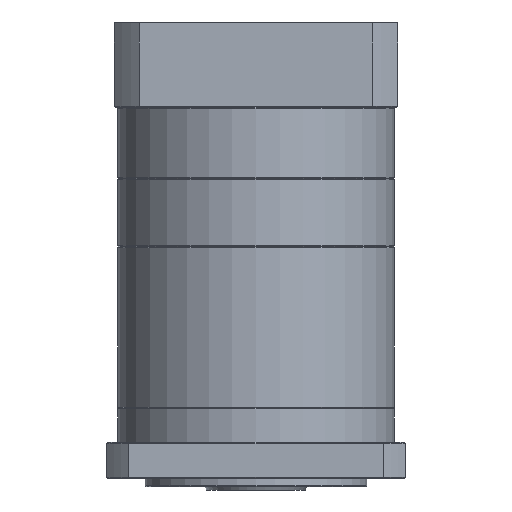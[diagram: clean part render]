
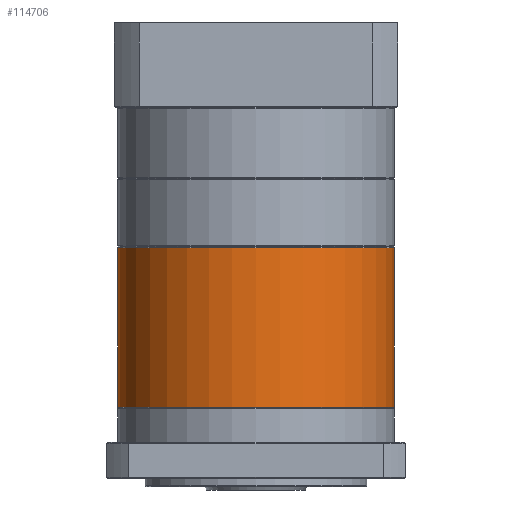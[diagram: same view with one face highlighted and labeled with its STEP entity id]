
A CAD part, front view. The second image highlights one B-rep face of the part: STEP entity #114706.
In plain terms, the highlighted cylindrical face has radius 81 mm (diameter 162 mm), a partial arc.
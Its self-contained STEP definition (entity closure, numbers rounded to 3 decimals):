
#2023 = CARTESIAN_POINT ( 'NONE',  ( -129.227, 108.408, -237.709 ) ) ;
#4892 = ORIENTED_EDGE ( 'NONE', *, *, #89793, .F. ) ;
#6529 = DIRECTION ( 'NONE',  ( 0., 0., -1. ) ) ;
#7050 = LINE ( 'NONE', #47188, #17883 ) ;
#8156 = DIRECTION ( 'NONE',  ( 0., 0., -1. ) ) ;
#17883 = VECTOR ( 'NONE', #8156, 1000. ) ;
#19099 = CARTESIAN_POINT ( 'NONE',  ( -48.227, 108.408, -143.709 ) ) ;
#20672 = VERTEX_POINT ( 'NONE', #50349 ) ;
#21249 = DIRECTION ( 'NONE',  ( -1., 0., 0. ) ) ;
#22335 = AXIS2_PLACEMENT_3D ( 'NONE', #109019, #68715, #119434 ) ;
#28466 = CARTESIAN_POINT ( 'NONE',  ( -48.227, 108.408, -144.209 ) ) ;
#30042 = LINE ( 'NONE', #94069, #50198 ) ;
#32660 = FACE_OUTER_BOUND ( 'NONE', #34008, .T. ) ;
#34008 = EDGE_LOOP ( 'NONE', ( #4892, #82136, #84194, #40765 ) ) ;
#35285 = EDGE_CURVE ( 'NONE', #113868, #20672, #78063, .T. ) ;
#36747 = CARTESIAN_POINT ( 'NONE',  ( -129.227, 108.408, -144.209 ) ) ;
#40765 = ORIENTED_EDGE ( 'NONE', *, *, #35285, .T. ) ;
#46629 = CYLINDRICAL_SURFACE ( 'NONE', #110450, 81. ) ;
#46761 = AXIS2_PLACEMENT_3D ( 'NONE', #28466, #97800, #117770 ) ;
#47188 = CARTESIAN_POINT ( 'NONE',  ( 32.773, 108.408, -143.709 ) ) ;
#50198 = VECTOR ( 'NONE', #6529, 1000. ) ;
#50349 = CARTESIAN_POINT ( 'NONE',  ( 32.773, 108.408, -237.709 ) ) ;
#68236 = VERTEX_POINT ( 'NONE', #71410 ) ;
#68715 = DIRECTION ( 'NONE',  ( 0., 0., 1. ) ) ;
#71410 = CARTESIAN_POINT ( 'NONE',  ( 32.773, 108.408, -144.209 ) ) ;
#78063 = CIRCLE ( 'NONE', #22335, 81. ) ;
#78712 = EDGE_CURVE ( 'NONE', #115062, #113868, #30042, .T. ) ;
#81064 = CIRCLE ( 'NONE', #46761, 81. ) ;
#82136 = ORIENTED_EDGE ( 'NONE', *, *, #106951, .T. ) ;
#84194 = ORIENTED_EDGE ( 'NONE', *, *, #78712, .T. ) ;
#89793 = EDGE_CURVE ( 'NONE', #68236, #20672, #7050, .T. ) ;
#94069 = CARTESIAN_POINT ( 'NONE',  ( -129.227, 108.408, -143.709 ) ) ;
#97800 = DIRECTION ( 'NONE',  ( 0., 0., -1. ) ) ;
#101029 = DIRECTION ( 'NONE',  ( 0., 0., -1. ) ) ;
#106951 = EDGE_CURVE ( 'NONE', #68236, #115062, #81064, .T. ) ;
#109019 = CARTESIAN_POINT ( 'NONE',  ( -48.227, 108.408, -237.709 ) ) ;
#110450 = AXIS2_PLACEMENT_3D ( 'NONE', #19099, #101029, #21249 ) ;
#113868 = VERTEX_POINT ( 'NONE', #2023 ) ;
#114706 = ADVANCED_FACE ( 'NONE', ( #32660 ), #46629, .T. ) ;
#115062 = VERTEX_POINT ( 'NONE', #36747 ) ;
#117770 = DIRECTION ( 'NONE',  ( -1., 0., 0. ) ) ;
#119434 = DIRECTION ( 'NONE',  ( -1., 0., 0. ) ) ;
